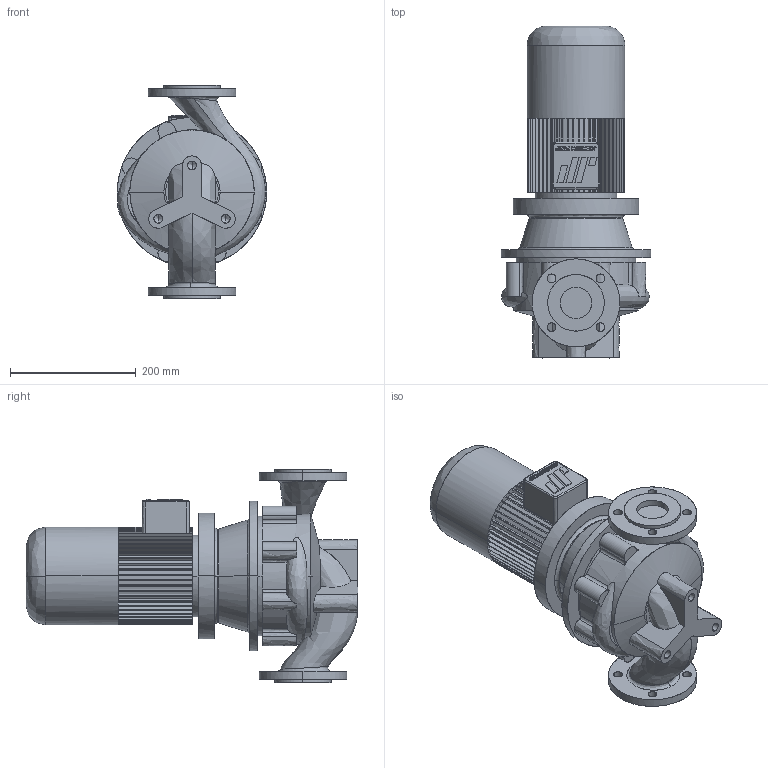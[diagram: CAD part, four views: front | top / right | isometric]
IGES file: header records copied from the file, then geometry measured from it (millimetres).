
Start section: CombiLine
Global section: file name: CLB_50-160_IEC80.igs; native system:  By UGS Corp.; preprocessor: XPlus GENERIC/IGES 3.0; author: Stageplaats; organization: Johnson Pump Water B.V.; date: 20070713.130304; units: millimetre
Bounding box: 238 x 528.5 x 340 mm (x, y, z)
Surface area: 613415.2 mm2 (no closed solid volume)
Topology: 0 solids, 0 shells, 540 faces, 3284 edges, 3278 vertices
Faces by surface type: bspline 540
